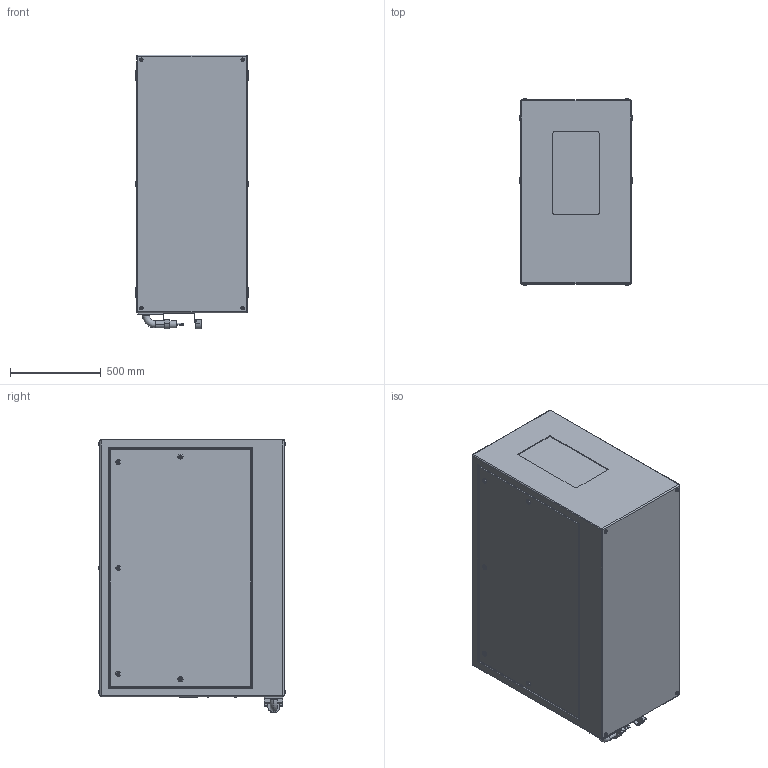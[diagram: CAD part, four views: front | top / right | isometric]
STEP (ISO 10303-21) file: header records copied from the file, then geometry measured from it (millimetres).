
FILE_DESCRIPTION (( 'STEP AP214' ), '1' );
FILE_NAME ('Oasis 59.310.P R02.STEP', '2022-09-12T23:41:52', ( '' ), ( '' ), 'SwSTEP 2.0', 'SolidWorks 2020', '' );
FILE_SCHEMA (( 'AUTOMOTIVE_DESIGN' ));
Length unit declared in the file: inch
Products named in the file (1): Oasis 59.310.P R02
Bounding box: 622.3 x 1033.27 x 1511.3 mm (x, y, z)
Volume: 880043532 mm3; surface area: 6476976 mm2
Topology: 3 solids, 9 shells, 570 faces, 1303 edges, 828 vertices
Faces by surface type: plane 315, cylinder 193, torus 54, bspline 8
Entity records: 21911 total; most frequent: CARTESIAN_POINT 3214, DIRECTION 2847, ORIENTED_EDGE 2590, EDGE_CURVE 1295, AXIS2_PLACEMENT_3D 1021, VERTEX_POINT 828, LINE 805, VECTOR 805
